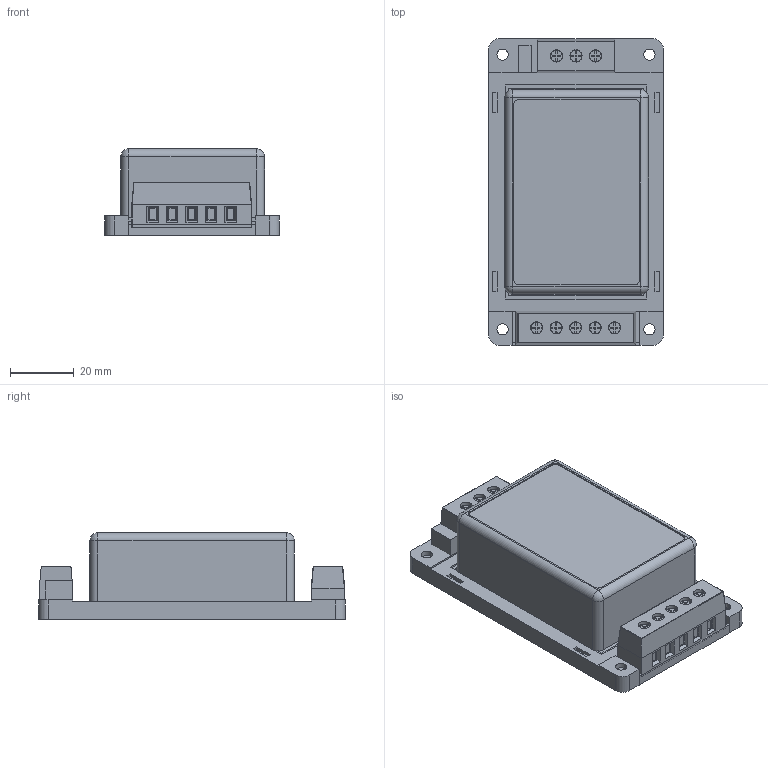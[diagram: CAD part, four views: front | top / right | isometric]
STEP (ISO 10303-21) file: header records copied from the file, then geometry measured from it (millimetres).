
FILE_DESCRIPTION((''),'2;1');
FILE_NAME('ATC-A2_ASM','2016-02-02T',('arch'),(''),'PRO/ENGINEER BY PARAMETRIC TECHNOLOGY CORPORATION, 2008380','PRO/ENGINEER BY PARAMETRIC TECHNOLOGY CORPORATION, 2008380','');
FILE_SCHEMA(('AUTOMOTIVE_DESIGN { 1 2 10303 214 0 1 1 1 }'));
Length unit declared in the file: millimetre
Products named in the file (27): PRODUCT_53866; PRODUCT_53849; PCB; EXTRUDE14; LPATTERN4_1_-44688; LPATTERN4_2_-44689; EXTRUDE5_2_-44693; PRODUCT_53764_ASM_ASM_ASM_ASM_A_ASM; EXTRUDE5_2_-44690; LPATTERN4_1_-44692; LPATTERN4_2_-44694; LPATTERN4_3_; LPATTERN4_4_; EXTRUDE7; PRODUCT_53747_ASM_ASM_ASM_ASM_A_ASM; ASM0001_ASM_ASM_ASM_ASM_ASM_ASM_ASM; MTC-A2_ASM_ASM_ASM_ASM_ASM_ASM__ASM; PRT0017; 96-A2_ASM_ASM_ASM_ASM_ASM_ASM_A_ASM; 96-A2_ASM_ASM_ASM_ASM_ASM_ASM_ASM; 96-A2_ASM_ASM_ASM_ASM_ASM_ASM; ATC-A2_ASM_ASM_ASM_ASM; ATC-A2_ASM_ASM_ASM; PRT0019; ATC-A2_ASM_ASM; ATC; ATC-A2_ASM
Assembly tree (28 placements, depth 11):
  ATC-A2_ASM
    ATC-A2_ASM_ASM
      ATC-A2_ASM_ASM_ASM
        ATC-A2_ASM_ASM_ASM_ASM
          96-A2_ASM_ASM_ASM_ASM_ASM_ASM
            96-A2_ASM_ASM_ASM_ASM_ASM_ASM_ASM
              96-A2_ASM_ASM_ASM_ASM_ASM_ASM_A_ASM
                MTC-A2_ASM_ASM_ASM_ASM_ASM_ASM__ASM
                  ASM0001_ASM_ASM_ASM_ASM_ASM_ASM_ASM
                PRT0017
      PRT0019  x3
    ATC
Bounding box: 54.6 x 95.9 x 27 mm (x, y, z)
Volume: 87997.9 mm3; surface area: 47752.7 mm2
Topology: 18 solids, 21 shells, 849 faces, 2204 edges, 1429 vertices
Faces by surface type: plane 546, cylinder 205, extrusion 54, torus 16, sphere 16, cone 12
Entity records: 32845 total; most frequent: CARTESIAN_POINT 5606, ORIENTED_EDGE 4244, DIRECTION 4169, EDGE_CURVE 2124, VECTOR 1461, LINE 1407, VERTEX_POINT 1381, AXIS2_PLACEMENT_3D 1354
